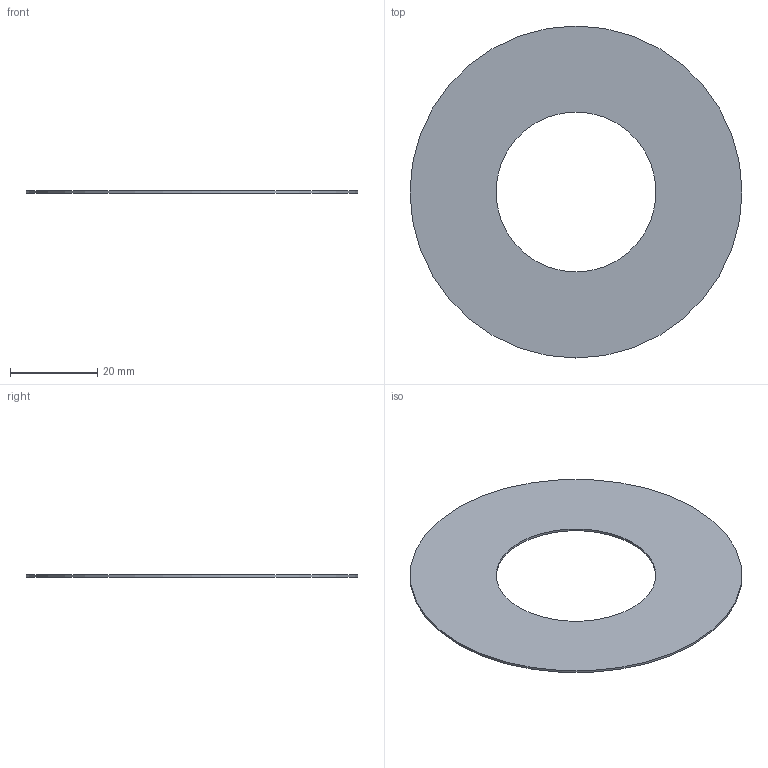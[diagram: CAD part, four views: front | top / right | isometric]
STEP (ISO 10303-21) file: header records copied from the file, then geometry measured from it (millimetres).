
FILE_DESCRIPTION(('Open CASCADE Model'),'2;1');
FILE_NAME('Open CASCADE Shape Model','2026-10-04T02:31:45',('Author'),( 'Open CASCADE'),'Open CASCADE STEP processor 8.0','Open CASCADE 8.0' ,'Unknown');
FILE_SCHEMA(('AUTOMOTIVE_DESIGN { 1 0 10303 214 1 1 1 1 }'));
Length unit declared in the file: millimetre
Products named in the file (1): Open CASCADE STEP translator 8.0 383
Bounding box: 76 x 76 x 0.5 mm (x, y, z)
Volume: 1742.2 mm3; surface area: 7145.6 mm2
Topology: 1 solids, 1 shells, 4 faces, 6 edges, 4 vertices
Faces by surface type: cylinder 2, plane 2
Full cylindrical faces by diameter (mm): 36.6 x1, 76 x1
Entity records: 186 total; most frequent: DIRECTION 32, CARTESIAN_POINT 27, ORIENTED_EDGE 12, PCURVE 12, DEFINITIONAL_REPRESENTATION 12, LINE 10, VECTOR 10, AXIS2_PLACEMENT_3D 9
